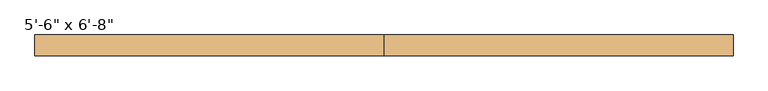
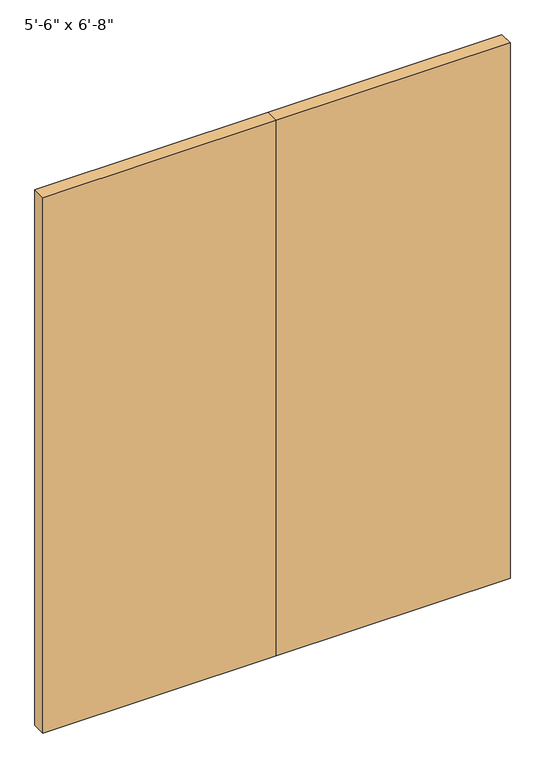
"""IFC4 building model written with IfcOpenShell, lengths in millimetres: door geometry."""

import ifcopenshell
import ifcopenshell.guid

model = None  # the IFC model being written
_history = None  # IfcOwnerHistory: only IFC2X3 demands one
_inside = {}  # id of a spatial element -> (the spatial element, [elements in it])
_under = {}  # id of a project, library or spatial element -> (it, [spatial elements below it])
_declared = {}  # id of a project -> (the project, [libraries it declares])
_typed = {}  # id of a type object -> (the type object, [elements of that type])
_made_of = {}  # id of a material, layer set ... -> (it, [elements and type objects made of it])


def new_model(schema):
    """Start an empty IFC model of exactly this schema.

    Asked for "IFC4X3", IfcOpenShell would pick the latest addendum, in which some entities
    have other attributes; the version numbers below select the first issue.
    IFC2X3 requires an IfcOwnerHistory on every rooted entity: one is made here for all.
    """
    global model, _history
    if schema == "IFC4X3":
        model = ifcopenshell.file(schema_version=(4, 3, 0, 0))
    else:
        model = ifcopenshell.file(schema=schema)
    _inside.clear()
    _under.clear()
    _declared.clear()
    _typed.clear()
    _made_of.clear()
    _history = None
    if model.schema == "IFC2X3":
        org = make("IfcOrganization", Name="unknown")
        user = make(
            "IfcPersonAndOrganization",
            ThePerson=make("IfcPerson", FamilyName="unknown"),
            TheOrganization=org,
        )
        app = make(
            "IfcApplication",
            ApplicationDeveloper=org,
            Version="unknown",
            ApplicationFullName="unknown",
            ApplicationIdentifier="unknown",
        )
        _history = make(
            "IfcOwnerHistory",
            OwningUser=user,
            OwningApplication=app,
            ChangeAction="ADDED",
            CreationDate=0,
        )
    return model


def make(cls, **values):
    """One entity of the class cls with the attributes given. An attribute that is None is left unset."""
    return model.create_entity(
        cls, **{name: value for name, value in values.items() if value is not None}
    )


def rooted(cls, **values):
    """An entity with a GlobalId (a new one), such as an element, a storey or a relation."""
    return make(cls, GlobalId=ifcopenshell.guid.new(), OwnerHistory=_history, **values)


def si_unit(unit_type, name, prefix=None):
    """IfcSIUnit, for example si_unit("LENGTHUNIT", "METRE", prefix="MILLI")."""
    return make("IfcSIUnit", UnitType=unit_type, Prefix=prefix, Name=name)


def assignment(units):
    """IfcUnitAssignment: the units of a project."""
    return None if units is None else make("IfcUnitAssignment", Units=units)


def point(xyz):
    """IfcCartesianPoint."""
    return None if xyz is None else make("IfcCartesianPoint", Coordinates=xyz)


def direction(xyz):
    """IfcDirection."""
    return None if xyz is None else make("IfcDirection", DirectionRatios=xyz)


def frame(location, z_axis=None, x_axis=None):
    """IfcAxis2Placement3D, a coordinate frame: its origin and axes. An axis left out is left unset."""
    return make(
        "IfcAxis2Placement3D",
        Location=point(location),
        Axis=direction(z_axis),
        RefDirection=direction(x_axis),
    )


def origin():
    """The frame at (0, 0, 0) with its axes left unset."""
    return frame((0.0, 0.0, 0.0))


def origin_with_axes():
    """The frame at (0, 0, 0) with the z axis (0, 0, 1) and the x axis (1, 0, 0) written out."""
    return frame((0.0, 0.0, 0.0), z_axis=(0.0, 0.0, 1.0), x_axis=(1.0, 0.0, 0.0))


def place(relative_to, where):
    """IfcLocalPlacement: puts the frame where relative to a parent placement (None: the world)."""
    return make(
        "IfcLocalPlacement", PlacementRelTo=relative_to, RelativePlacement=where
    )


def context(
    kind, dimensions, precision=None, world=None, true_north=None, identifier=None
):
    """IfcGeometricRepresentationContext, for example the 3D "Model" context."""
    return make(
        "IfcGeometricRepresentationContext",
        ContextIdentifier=identifier,
        ContextType=kind,
        CoordinateSpaceDimension=dimensions,
        Precision=precision,
        WorldCoordinateSystem=world,
        TrueNorth=true_north,
    )


def project(units=None, contexts=None):
    """IfcProject with its units and contexts."""
    return rooted(
        "IfcProject",
        Name="project",
        RepresentationContexts=contexts,
        UnitsInContext=assignment(units),
    )


def spatial(cls, under=None, at=None, **own):
    """A site, building, storey or space (cls), placed at a placement, below another one or the project."""
    s = rooted(cls, ObjectPlacement=at, **own)
    if under is not None:
        _under.setdefault(under.id(), (under, []))[1].append(s)
    return s


def polyline(points):
    """IfcPolyline through the points."""
    return make("IfcPolyline", Points=[point(p) for p in points])


def outline(outer, holes=None, kind="AREA"):
    """IfcArbitraryClosedProfileDef: a profile drawn as a closed curve; with holes, ...WithVoids."""
    if holes is None:
        return make("IfcArbitraryClosedProfileDef", ProfileType=kind, OuterCurve=outer)
    return make(
        "IfcArbitraryProfileDefWithVoids",
        ProfileType=kind,
        OuterCurve=outer,
        InnerCurves=holes,
    )


def extrude(swept, where, along, depth):
    """IfcExtrudedAreaSolid: the profile swept, set in the frame where, extruded along a direction by depth."""
    return make(
        "IfcExtrudedAreaSolid",
        SweptArea=swept,
        Position=where,
        ExtrudedDirection=direction(along),
        Depth=depth,
    )


def shape(context_of_items, identifier, shape_type, items):
    """IfcShapeRepresentation: the items that make up one representation, for example the "Body"."""
    return make(
        "IfcShapeRepresentation",
        ContextOfItems=context_of_items,
        RepresentationIdentifier=identifier,
        RepresentationType=shape_type,
        Items=items,
    )


def source(mapping_origin, context_of_items, identifier, shape_type, items):
    """IfcRepresentationMap: a shape defined once, which mapped items show again and again."""
    return make(
        "IfcRepresentationMap",
        MappingOrigin=mapping_origin,
        MappedRepresentation=shape(context_of_items, identifier, shape_type, items),
    )


def transform(
    local_origin,
    x_axis=None,
    y_axis=None,
    z_axis=None,
    scale=None,
    scale2=None,
    scale3=None,
    uniform=True,
):
    """IfcCartesianTransformationOperator3D, or its non-uniform kind. x_axis, y_axis, z_axis: its Axis1, 2, 3."""
    if uniform:
        return make(
            "IfcCartesianTransformationOperator3D",
            Axis1=direction(x_axis),
            Axis2=direction(y_axis),
            LocalOrigin=point(local_origin),
            Scale=scale,
            Axis3=direction(z_axis),
        )
    return make(
        "IfcCartesianTransformationOperator3DnonUniform",
        Axis1=direction(x_axis),
        Axis2=direction(y_axis),
        LocalOrigin=point(local_origin),
        Scale=scale,
        Axis3=direction(z_axis),
        Scale2=scale2,
        Scale3=scale3,
    )


def mapped(mapping_source, mapping_target):
    """IfcMappedItem: shows the shape of a source again, moved by a transform."""
    return make(
        "IfcMappedItem", MappingSource=mapping_source, MappingTarget=mapping_target
    )


def made_of(thing, what):
    """Note that an element or type object is made of a material, layer set ...; save() writes the relation."""
    if what is not None:
        _made_of.setdefault(what.id(), (what, []))[1].append(thing)
    return thing


def element(
    cls,
    number,
    at=None,
    inside=None,
    cuts=None,
    type_object=None,
    material=None,
    context=None,
    identifier="Body",
    shape_type=None,
    held_by="IfcProductDefinitionShape",
    body=None,
    shapes=None,
    **own,
):
    """One element of the class cls, such as IfcWall. Its Tag is "e" and its number.

    at: its placement. inside: the storey or other place that contains it. cuts: it is an
    opening in that element (IfcRelVoidsElement). A single representation is given by context,
    identifier, shape_type and body (its items); several are given by shapes. held_by: the class
    of the entity that holds the representations. save() writes the other relations.
    """
    e = rooted(cls, Tag="e%d" % number, ObjectPlacement=at, **own)
    if body is not None:
        shapes = [shape(context, identifier, shape_type, body)]
    if shapes is not None:
        e.Representation = make(held_by, Representations=shapes)
    if inside is not None:
        _inside.setdefault(inside.id(), (inside, []))[1].append(e)
    if cuts is not None:
        rooted(
            "IfcRelVoidsElement", RelatingBuildingElement=cuts, RelatedOpeningElement=e
        )
    if type_object is not None:
        _typed.setdefault(type_object.id(), (type_object, []))[1].append(e)
    return made_of(e, material)


def aggregate(whole, parts):
    """IfcRelAggregates: a whole, such as a stair, and the parts it consists of."""
    return rooted("IfcRelAggregates", RelatingObject=whole, RelatedObjects=parts)


def save(model, path):
    """Write the relations noted so far, then the file.

    IfcRelAggregates (storeys below a building ...), IfcRelContainedInSpatialStructure (elements
    in a storey), IfcRelDefinesByType, IfcRelAssociatesMaterial and IfcRelDeclares: one each for
    every whole, place, type object, material and project.
    """
    for whole, parts in _under.values():
        aggregate(whole, parts)
    for where, things in _inside.values():
        rooted(
            "IfcRelContainedInSpatialStructure",
            RelatedElements=things,
            RelatingStructure=where,
        )
    for kind, things in _typed.values():
        rooted("IfcRelDefinesByType", RelatedObjects=things, RelatingType=kind)
    for what, things in _made_of.values():
        rooted("IfcRelAssociatesMaterial", RelatedObjects=things, RelatingMaterial=what)
    for by, libraries in _declared.values():
        rooted("IfcRelDeclares", RelatingContext=by, RelatedDefinitions=libraries)
    model.write(path)


def door_7d71c894(model_context):
    return source(origin(), model_context, "Body", "SweptSolid", [
        extrude(outline(polyline([(0.0, 82.55), (838.2, 82.55), (838.2, 32.55), (0.0, 32.55), (0.0, 82.55)])), origin_with_axes(), (0.0, 0.0, 1.0), 2032.0),
        extrude(outline(polyline([(-838.2, 82.55), (0.0, 82.55), (0.0, 32.55), (-838.2, 32.55), (-838.2, 82.55)])), origin_with_axes(), (0.0, 0.0, 1.0), 2032.0),
    ])


if __name__ == "__main__":
    model = new_model("IFC4")
    model_context = context("Model", 3, world=origin())
    ifc_project = project(units=[si_unit("LENGTHUNIT", "METRE", prefix="MILLI")], contexts=[model_context])
    site = spatial("IfcSite", under=ifc_project)
    building = spatial("IfcBuilding", under=site)
    placement = place(None, origin())
    door_shape = door_7d71c894(model_context)
    element("IfcDoor", 1, ObjectType="Planitar - Double Door_Flush Panel : 5'-6\" x 6'-8\"", at=placement, inside=building, context=model_context, shape_type="MappedRepresentation", body=[
        mapped(door_shape, transform((0.0, 0.0, 0.0), x_axis=(1.0, 0.0, 0.0), y_axis=(0.0, 1.0, 0.0), z_axis=(0.0, 0.0, 1.0))),
    ])
    save(model, "model.ifc")
